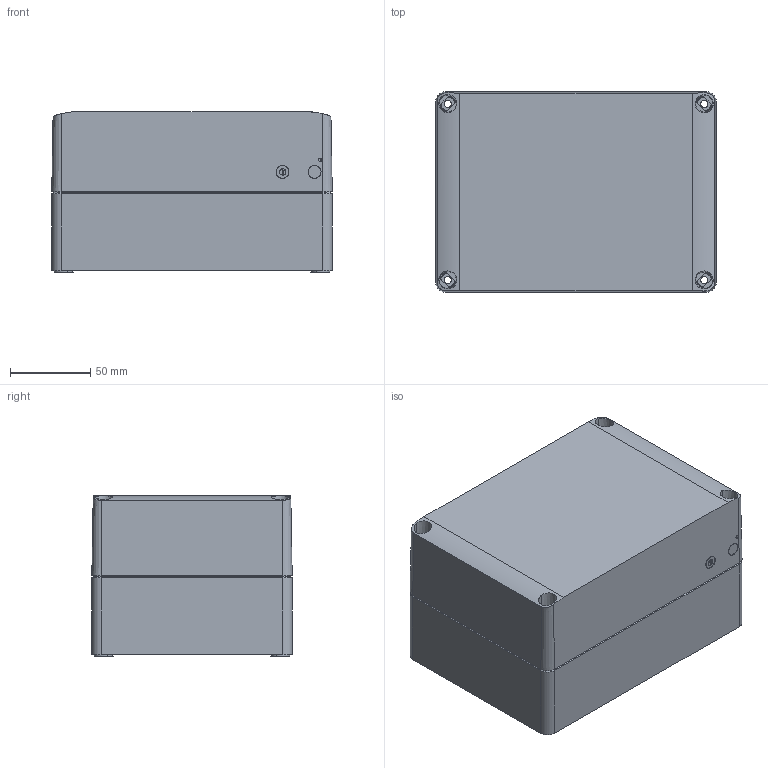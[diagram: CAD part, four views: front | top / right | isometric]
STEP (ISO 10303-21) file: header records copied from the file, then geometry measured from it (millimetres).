
FILE_DESCRIPTION (( 'STEP AP203' ), '1' );
FILE_NAME ('q181310abecc.STEP', '2017-07-10T19:06:14', ( '' ), ( '' ), 'SwSTEP 2.0', 'SolidWorks 2014', '' );
FILE_SCHEMA (( 'CONFIG_CONTROL_DESIGN' ));
Length unit declared in the file: millimetre
Products named in the file (3): 89157603; 89157672; q181310abecc
Assembly tree (2 placements, depth 2):
  q181310abecc
    89157603
    89157672
Bounding box: 175 x 125 x 100 mm (x, y, z)
Volume: 187519 mm3; surface area: 222064.7 mm2
Topology: 1 solids, 2 shells, 1012 faces, 2888 edges, 1953 vertices
Faces by surface type: plane 600, cylinder 238, cone 106, bspline 68
Entity records: 76523 total; most frequent: CARTESIAN_POINT 51715, ORIENTED_EDGE 5732, DIRECTION 4076, EDGE_CURVE 2888, VERTEX_POINT 1956, VECTOR 1498, LINE 1498, AXIS2_PLACEMENT_3D 1289
